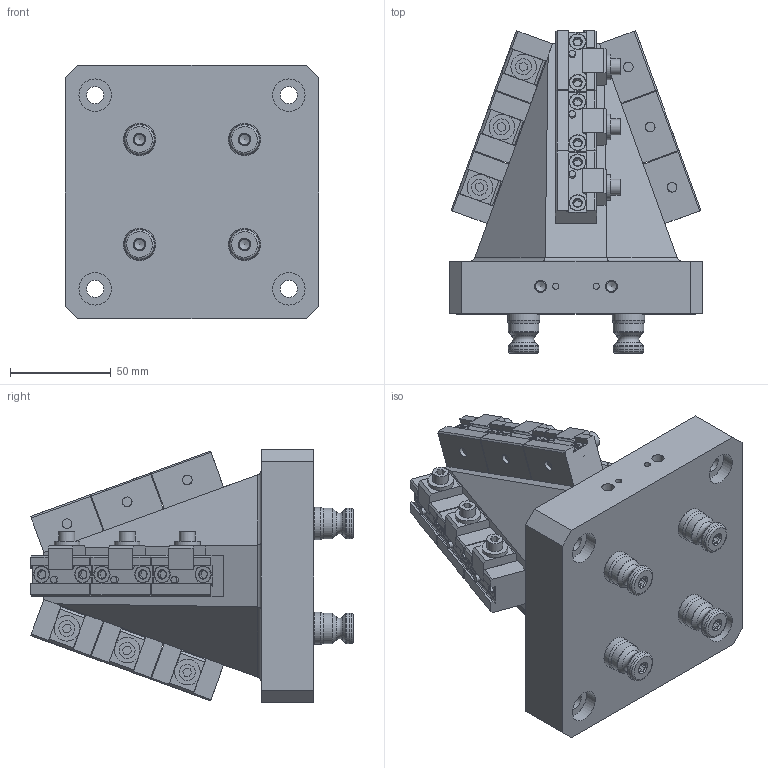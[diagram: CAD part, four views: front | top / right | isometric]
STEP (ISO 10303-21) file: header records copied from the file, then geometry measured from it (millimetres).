
FILE_DESCRIPTION (( 'STEP AP214' ), '1' );
FILE_NAME ('A52-P12D05125_WEBSITE.STEP', '2025-08-13T05:14:55', ( '' ), ( '' ), 'SwSTEP 2.0', 'SolidWorks 2025', '' );
FILE_SCHEMA (( 'AUTOMOTIVE_DESIGN' ));
Length unit declared in the file: millimetre
Products named in the file (14): D_AU-P12D05125-1_WEBSITE; D_D05125-1_WEBSITE_D051251WM-1; D_D05125_WEBSITE; D_HW.0125X0250.DP_WEBSITE_DEFAULT; PS16F-1_WEBSITE_HARD TURN; A52-P12D05125_WEBSITE; D_HW.73044_WEBSITE_HW.73044; M8X20.FPSS_WEBSITE_93245A145; D_HW.73040_WEBSITE_HW.73040; D_HW.0236X0256.CS_WEBSITE; D_HW.0203X0500.FW_WEBSITE_DEFAULT; D_CLW10_WEBSITE_CLW10; PS16F_WEBSITE; D_HW.0125X0375.DP_WEBSITE_DEFAULT
Assembly tree (29 placements, depth 3):
  A52-P12D05125_WEBSITE
    D_AU-P12D05125-1_WEBSITE
    D_D05125_WEBSITE  x12
      D_D05125-1_WEBSITE_D051251WM-1
      D_CLW10_WEBSITE_CLW10
      D_HW.0203X0500.FW_WEBSITE_DEFAULT
      D_HW.0125X0375.DP_WEBSITE_DEFAULT
      D_HW.0125X0250.DP_WEBSITE_DEFAULT
      D_HW.0236X0256.CS_WEBSITE
      D_HW.73044_WEBSITE_HW.73044
      D_HW.73040_WEBSITE_HW.73040
    PS16F_WEBSITE  x4
      PS16F-1_WEBSITE_HARD TURN
      M8X20.FPSS_WEBSITE_93245A145
Bounding box: 125.73 x 159.78 x 125.73 mm (x, y, z)
Volume: 943660.5 mm3; surface area: 180781.2 mm2
Topology: 129 solids, 129 shells, 1857 faces, 4087 edges, 2610 vertices
Faces by surface type: plane 1116, cylinder 425, cone 276, torus 28, bspline 12
Full cylindrical faces by diameter (mm): 3.03 x4, 3.175 x72, 3.2 x40, 3.3 x2, 4 x2, 4.039 x40, 4.826 x48, 4.978 x24, 5 x2, 5.159 x12, 5.182 x12, 5.25 x4, 6 x2, 6.35 x12, 6.8 x8, 7.925 x36, 8 x8, 8.5 x4, 8.509 x24, 11.991 x4, 12.017 x4, 12.7 x12, 15.202 x8, 15.24 x1, 15.997 x4, 16.02 x4
Entity records: 10195 total; most frequent: CARTESIAN_POINT 2105, DIRECTION 1670, ORIENTED_EDGE 1122, AXIS2_PLACEMENT_3D 727, EDGE_LOOP 680, EDGE_CURVE 561, FACE_OUTER_BOUND 531, VERTEX_POINT 465
